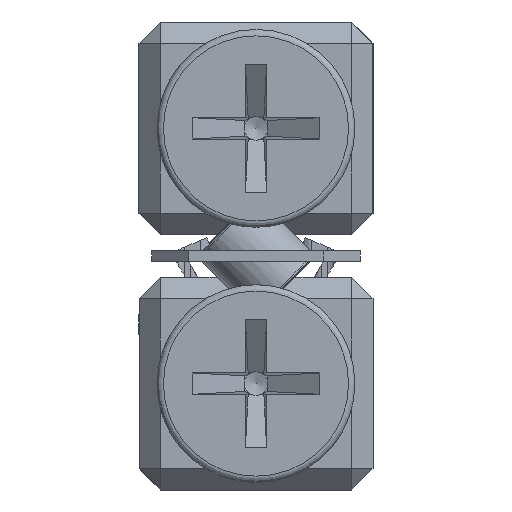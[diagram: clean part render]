
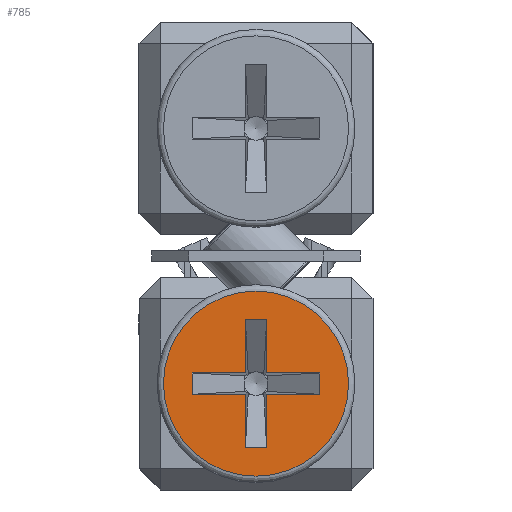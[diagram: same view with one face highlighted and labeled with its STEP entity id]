
A CAD part, left-side view. The second image highlights one B-rep face of the part: STEP entity #785.
In plain terms, the highlighted planar face has unit normal (-1, 0, 0).
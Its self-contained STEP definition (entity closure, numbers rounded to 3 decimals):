
#19 = CARTESIAN_POINT ( 'NONE',  ( -142., 0.5, 4.5 ) ) ;
#785 = ADVANCED_FACE ( 'NONE', ( #1675, #14008 ), #16781, .F. ) ;
#909 = CARTESIAN_POINT ( 'NONE',  ( -142., 0.5, 2. ) ) ;
#927 = EDGE_CURVE ( 'NONE', #16316, #12508, #17594, .T. ) ;
#1102 = ORIENTED_EDGE ( 'NONE', *, *, #9029, .F. ) ;
#1369 = EDGE_CURVE ( 'NONE', #6082, #6082, #14691, .T. ) ;
#1418 = LINE ( 'NONE', #13762, #2076 ) ;
#1445 = DIRECTION ( 'NONE',  ( 0., 0., -1. ) ) ;
#1675 = FACE_OUTER_BOUND ( 'NONE', #30380, .T. ) ;
#1743 = CARTESIAN_POINT ( 'NONE',  ( -142., -0.5, 4.5 ) ) ;
#1761 = ORIENTED_EDGE ( 'NONE', *, *, #4752, .T. ) ;
#2076 = VECTOR ( 'NONE', #23501, 1000. ) ;
#2331 = VECTOR ( 'NONE', #8154, 1000. ) ;
#2650 = DIRECTION ( 'NONE',  ( 0., -1., 0. ) ) ;
#2738 = AXIS2_PLACEMENT_3D ( 'NONE', #21799, #9168, #28970 ) ;
#2975 = CARTESIAN_POINT ( 'NONE',  ( -142., -0.5, 8. ) ) ;
#3236 = CARTESIAN_POINT ( 'NONE',  ( -142., -3., 4.5 ) ) ;
#3771 = CARTESIAN_POINT ( 'NONE',  ( -142., 0.5, 5.5 ) ) ;
#4752 = EDGE_CURVE ( 'NONE', #4974, #14935, #1418, .T. ) ;
#4863 = CARTESIAN_POINT ( 'NONE',  ( -142., 0.5, 2. ) ) ;
#4974 = VERTEX_POINT ( 'NONE', #20388 ) ;
#5493 = CARTESIAN_POINT ( 'NONE',  ( -142., 0.5, 8. ) ) ;
#5672 = LINE ( 'NONE', #3236, #27561 ) ;
#6082 = VERTEX_POINT ( 'NONE', #11118 ) ;
#6232 = ORIENTED_EDGE ( 'NONE', *, *, #26013, .T. ) ;
#6673 = EDGE_CURVE ( 'NONE', #11398, #10131, #7447, .T. ) ;
#7229 = CARTESIAN_POINT ( 'NONE',  ( -142., 3., 5.5 ) ) ;
#7282 = ORIENTED_EDGE ( 'NONE', *, *, #28953, .T. ) ;
#7447 = LINE ( 'NONE', #4863, #19386 ) ;
#7648 = DIRECTION ( 'NONE',  ( 0., 0., -1. ) ) ;
#7946 = EDGE_LOOP ( 'NONE', ( #7282, #10727, #22857, #1761, #10082, #6232, #13487, #1102, #13609, #19643, #18538, #10837 ) ) ;
#8154 = DIRECTION ( 'NONE',  ( 0., 1., 0. ) ) ;
#8386 = DIRECTION ( 'NONE',  ( 0., -1., 0. ) ) ;
#8764 = VERTEX_POINT ( 'NONE', #20787 ) ;
#9029 = EDGE_CURVE ( 'NONE', #11398, #8764, #18292, .T. ) ;
#9111 = LINE ( 'NONE', #28910, #11984 ) ;
#9168 = DIRECTION ( 'NONE',  ( 1., 0., 0. ) ) ;
#9941 = LINE ( 'NONE', #12709, #16331 ) ;
#10082 = ORIENTED_EDGE ( 'NONE', *, *, #25991, .F. ) ;
#10131 = VERTEX_POINT ( 'NONE', #19 ) ;
#10430 = EDGE_CURVE ( 'NONE', #12623, #17815, #9111, .T. ) ;
#10699 = EDGE_CURVE ( 'NONE', #10131, #27463, #5672, .T. ) ;
#10727 = ORIENTED_EDGE ( 'NONE', *, *, #10430, .F. ) ;
#10805 = CARTESIAN_POINT ( 'NONE',  ( -142., 0.5, 2. ) ) ;
#10837 = ORIENTED_EDGE ( 'NONE', *, *, #927, .T. ) ;
#11118 = CARTESIAN_POINT ( 'NONE',  ( -142., 0., 0.65 ) ) ;
#11293 = LINE ( 'NONE', #10805, #11764 ) ;
#11398 = VERTEX_POINT ( 'NONE', #20360 ) ;
#11764 = VECTOR ( 'NONE', #20687, 1000. ) ;
#11984 = VECTOR ( 'NONE', #26465, 1000. ) ;
#12124 = VECTOR ( 'NONE', #1445, 1000. ) ;
#12508 = VERTEX_POINT ( 'NONE', #3771 ) ;
#12623 = VERTEX_POINT ( 'NONE', #16419 ) ;
#12709 = CARTESIAN_POINT ( 'NONE',  ( -142., -3., 4.5 ) ) ;
#12997 = VECTOR ( 'NONE', #8386, 1000. ) ;
#13487 = ORIENTED_EDGE ( 'NONE', *, *, #14032, .T. ) ;
#13609 = ORIENTED_EDGE ( 'NONE', *, *, #6673, .T. ) ;
#13762 = CARTESIAN_POINT ( 'NONE',  ( -142., 3., 5.5 ) ) ;
#14008 = FACE_BOUND ( 'NONE', #7946, .T. ) ;
#14032 = EDGE_CURVE ( 'NONE', #22293, #8764, #25221, .T. ) ;
#14038 = ORIENTED_EDGE ( 'NONE', *, *, #1369, .T. ) ;
#14145 = CARTESIAN_POINT ( 'NONE',  ( -142., -0.5, 8. ) ) ;
#14259 = CARTESIAN_POINT ( 'NONE',  ( -142., 3., 4.5 ) ) ;
#14394 = CARTESIAN_POINT ( 'NONE',  ( -142., -3., 4.5 ) ) ;
#14691 = CIRCLE ( 'NONE', #16744, 4.35 ) ;
#14751 = DIRECTION ( 'NONE',  ( 0., 0., 1. ) ) ;
#14935 = VERTEX_POINT ( 'NONE', #19376 ) ;
#14952 = LINE ( 'NONE', #22605, #2331 ) ;
#15732 = DIRECTION ( 'NONE',  ( 0., 1., 0. ) ) ;
#16316 = VERTEX_POINT ( 'NONE', #26467 ) ;
#16331 = VECTOR ( 'NONE', #30234, 1000. ) ;
#16419 = CARTESIAN_POINT ( 'NONE',  ( -142., -0.5, 8. ) ) ;
#16737 = VECTOR ( 'NONE', #28791, 1000. ) ;
#16744 = AXIS2_PLACEMENT_3D ( 'NONE', #22738, #30224, #7648 ) ;
#16781 = PLANE ( 'NONE',  #2738 ) ;
#17594 = LINE ( 'NONE', #27181, #28227 ) ;
#17815 = VERTEX_POINT ( 'NONE', #5493 ) ;
#18292 = LINE ( 'NONE', #909, #12997 ) ;
#18538 = ORIENTED_EDGE ( 'NONE', *, *, #27807, .F. ) ;
#19178 = LINE ( 'NONE', #14145, #16737 ) ;
#19376 = CARTESIAN_POINT ( 'NONE',  ( -142., -3., 5.5 ) ) ;
#19386 = VECTOR ( 'NONE', #14751, 1000. ) ;
#19643 = ORIENTED_EDGE ( 'NONE', *, *, #10699, .T. ) ;
#20360 = CARTESIAN_POINT ( 'NONE',  ( -142., 0.5, 2. ) ) ;
#20388 = CARTESIAN_POINT ( 'NONE',  ( -142., -0.5, 5.5 ) ) ;
#20418 = EDGE_CURVE ( 'NONE', #12623, #4974, #19178, .T. ) ;
#20687 = DIRECTION ( 'NONE',  ( 0., 0., 1. ) ) ;
#20787 = CARTESIAN_POINT ( 'NONE',  ( -142., -0.5, 2. ) ) ;
#21799 = CARTESIAN_POINT ( 'NONE',  ( -142., 4.65, 5. ) ) ;
#22293 = VERTEX_POINT ( 'NONE', #1743 ) ;
#22605 = CARTESIAN_POINT ( 'NONE',  ( -142., -3., 4.5 ) ) ;
#22738 = CARTESIAN_POINT ( 'NONE',  ( -142., 0., 5. ) ) ;
#22857 = ORIENTED_EDGE ( 'NONE', *, *, #20418, .T. ) ;
#23501 = DIRECTION ( 'NONE',  ( 0., -1., 0. ) ) ;
#24699 = VECTOR ( 'NONE', #26573, 1000. ) ;
#25221 = LINE ( 'NONE', #2975, #12124 ) ;
#25991 = EDGE_CURVE ( 'NONE', #31715, #14935, #9941, .T. ) ;
#26013 = EDGE_CURVE ( 'NONE', #31715, #22293, #14952, .T. ) ;
#26465 = DIRECTION ( 'NONE',  ( 0., 1., 0. ) ) ;
#26467 = CARTESIAN_POINT ( 'NONE',  ( -142., 3., 5.5 ) ) ;
#26573 = DIRECTION ( 'NONE',  ( 0., 0., -1. ) ) ;
#27181 = CARTESIAN_POINT ( 'NONE',  ( -142., 3., 5.5 ) ) ;
#27463 = VERTEX_POINT ( 'NONE', #14259 ) ;
#27561 = VECTOR ( 'NONE', #15732, 1000. ) ;
#27807 = EDGE_CURVE ( 'NONE', #16316, #27463, #29166, .T. ) ;
#28227 = VECTOR ( 'NONE', #2650, 1000. ) ;
#28791 = DIRECTION ( 'NONE',  ( 0., 0., -1. ) ) ;
#28910 = CARTESIAN_POINT ( 'NONE',  ( -142., -0.5, 8. ) ) ;
#28953 = EDGE_CURVE ( 'NONE', #12508, #17815, #11293, .T. ) ;
#28970 = DIRECTION ( 'NONE',  ( 0., 0., -1. ) ) ;
#29166 = LINE ( 'NONE', #7229, #24699 ) ;
#30224 = DIRECTION ( 'NONE',  ( -1., 0., 0. ) ) ;
#30234 = DIRECTION ( 'NONE',  ( 0., 0., 1. ) ) ;
#30380 = EDGE_LOOP ( 'NONE', ( #14038 ) ) ;
#31715 = VERTEX_POINT ( 'NONE', #14394 ) ;
